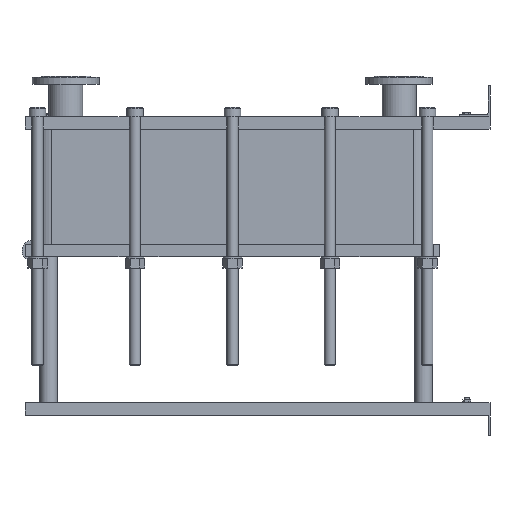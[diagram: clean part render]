
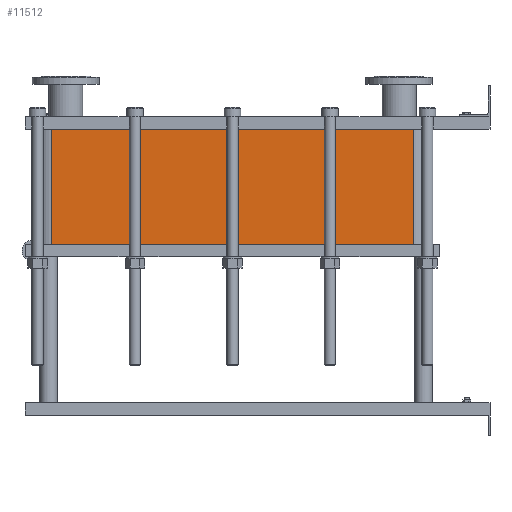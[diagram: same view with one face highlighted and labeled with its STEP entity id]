
A CAD part, left-side view. The second image highlights one B-rep face of the part: STEP entity #11512.
In plain terms, the highlighted planar face has unit normal (-1, 0, 0).
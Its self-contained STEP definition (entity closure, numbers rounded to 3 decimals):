
#1129=LINE('',#23232,#2102);
#1130=LINE('',#23236,#2103);
#1131=LINE('',#23238,#2104);
#1132=LINE('',#23239,#2105);
#2102=VECTOR('',#15887,10.);
#2103=VECTOR('',#15892,10.);
#2104=VECTOR('',#15893,10.);
#2105=VECTOR('',#15894,10.);
#3267=FACE_OUTER_BOUND('',#4093,.T.);
#4093=EDGE_LOOP('',(#10103,#10104,#10105,#10106));
#5642=VERTEX_POINT('',#23229);
#5643=VERTEX_POINT('',#23231);
#5644=VERTEX_POINT('',#23235);
#5645=VERTEX_POINT('',#23237);
#7159=EDGE_CURVE('',#5643,#5642,#1129,.T.);
#7161=EDGE_CURVE('',#5642,#5644,#1130,.T.);
#7162=EDGE_CURVE('',#5645,#5644,#1131,.T.);
#7163=EDGE_CURVE('',#5645,#5643,#1132,.T.);
#10103=ORIENTED_EDGE('',*,*,#7161,.T.);
#10104=ORIENTED_EDGE('',*,*,#7162,.F.);
#10105=ORIENTED_EDGE('',*,*,#7163,.T.);
#10106=ORIENTED_EDGE('',*,*,#7159,.T.);
#10857=PLANE('',#12751);
#11512=ADVANCED_FACE('',(#3267),#10857,.T.);
#12751=AXIS2_PLACEMENT_3D('',#23234,#15890,#15891);
#15887=DIRECTION('',(0.,0.,-1.));
#15890=DIRECTION('center_axis',(-1.,0.,0.));
#15891=DIRECTION('ref_axis',(0.,1.,0.));
#15892=DIRECTION('',(0.,-1.,0.));
#15893=DIRECTION('',(0.,0.,-1.));
#15894=DIRECTION('',(0.,1.,0.));
#23229=CARTESIAN_POINT('',(-200.,1414.,-372.6));
#23231=CARTESIAN_POINT('',(-200.,1414.,0.));
#23232=CARTESIAN_POINT('',(-200.,1414.,0.));
#23234=CARTESIAN_POINT('Origin',(-200.,248.,0.));
#23235=CARTESIAN_POINT('',(-200.,248.,-372.6));
#23236=CARTESIAN_POINT('',(-200.,539.5,-372.6));
#23237=CARTESIAN_POINT('',(-200.,248.,0.));
#23238=CARTESIAN_POINT('',(-200.,248.,0.));
#23239=CARTESIAN_POINT('',(-200.,248.,0.));
